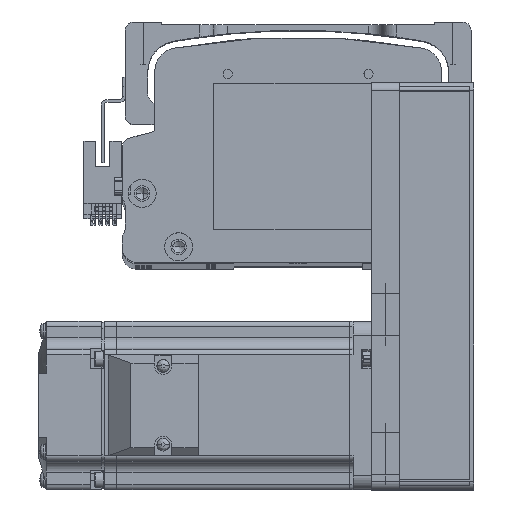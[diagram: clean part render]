
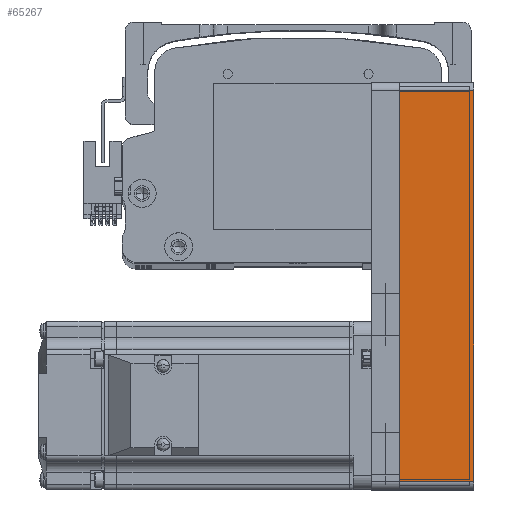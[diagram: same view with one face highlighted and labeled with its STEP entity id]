
A CAD part, top view. The second image highlights one B-rep face of the part: STEP entity #65267.
In plain terms, the highlighted planar face has unit normal (0, 0, 1) as drawn and (0, -1, 0) by its records, which use the part's own axes.
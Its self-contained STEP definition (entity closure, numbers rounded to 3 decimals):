
#107 = PLANE ( 'NONE',  #21748 ) ;
#4521 = ORIENTED_EDGE ( 'NONE', *, *, #53384, .F. ) ;
#7506 = LINE ( 'NONE', #62050, #72960 ) ;
#10735 = VECTOR ( 'NONE', #60089, 1000. ) ;
#11796 = VERTEX_POINT ( 'NONE', #30981 ) ;
#17232 = DIRECTION ( 'NONE',  ( 1., 0., 0. ) ) ;
#20914 = CARTESIAN_POINT ( 'NONE',  ( -69.5, -30., 26.5 ) ) ;
#21748 = AXIS2_PLACEMENT_3D ( 'NONE', #65824, #26656, #72390 ) ;
#25986 = ORIENTED_EDGE ( 'NONE', *, *, #53630, .T. ) ;
#26656 = DIRECTION ( 'NONE',  ( 0., 1., 0. ) ) ;
#30246 = DIRECTION ( 'NONE',  ( 1., 0., 0. ) ) ;
#30981 = CARTESIAN_POINT ( 'NONE',  ( 69.5, -30., 26.5 ) ) ;
#32810 = VECTOR ( 'NONE', #17232, 1000. ) ;
#39205 = ORIENTED_EDGE ( 'NONE', *, *, #51744, .T. ) ;
#43864 = VECTOR ( 'NONE', #30246, 1000. ) ;
#44516 = ORIENTED_EDGE ( 'NONE', *, *, #59142, .T. ) ;
#44637 = CARTESIAN_POINT ( 'NONE',  ( 69.5, -30., 0. ) ) ;
#45499 = LINE ( 'NONE', #20914, #10735 ) ;
#51744 = EDGE_CURVE ( 'NONE', #80004, #11796, #7506, .T. ) ;
#53384 = EDGE_CURVE ( 'NONE', #82242, #11796, #82866, .T. ) ;
#53630 = EDGE_CURVE ( 'NONE', #82242, #75015, #45499, .T. ) ;
#54361 = CARTESIAN_POINT ( 'NONE',  ( -69.5, -30., 0. ) ) ;
#56697 = CARTESIAN_POINT ( 'NONE',  ( 72.5, -30., 26.5 ) ) ;
#57983 = CARTESIAN_POINT ( 'NONE',  ( -69.5, -30., 26.5 ) ) ;
#59142 = EDGE_CURVE ( 'NONE', #75015, #80004, #60411, .T. ) ;
#60089 = DIRECTION ( 'NONE',  ( 0., 0., -1. ) ) ;
#60411 = LINE ( 'NONE', #75934, #43864 ) ;
#62050 = CARTESIAN_POINT ( 'NONE',  ( 69.5, -30., 26.5 ) ) ;
#64632 = EDGE_LOOP ( 'NONE', ( #44516, #39205, #4521, #25986 ) ) ;
#65267 = ADVANCED_FACE ( 'NONE', ( #80567 ), #107, .F. ) ;
#65824 = CARTESIAN_POINT ( 'NONE',  ( 72.5, -30., 26.5 ) ) ;
#68619 = DIRECTION ( 'NONE',  ( 0., 0., 1. ) ) ;
#72390 = DIRECTION ( 'NONE',  ( -1., 0., 0. ) ) ;
#72960 = VECTOR ( 'NONE', #68619, 1000. ) ;
#75015 = VERTEX_POINT ( 'NONE', #54361 ) ;
#75934 = CARTESIAN_POINT ( 'NONE',  ( 72.5, -30., 0. ) ) ;
#80004 = VERTEX_POINT ( 'NONE', #44637 ) ;
#80567 = FACE_OUTER_BOUND ( 'NONE', #64632, .T. ) ;
#82242 = VERTEX_POINT ( 'NONE', #57983 ) ;
#82866 = LINE ( 'NONE', #56697, #32810 ) ;
